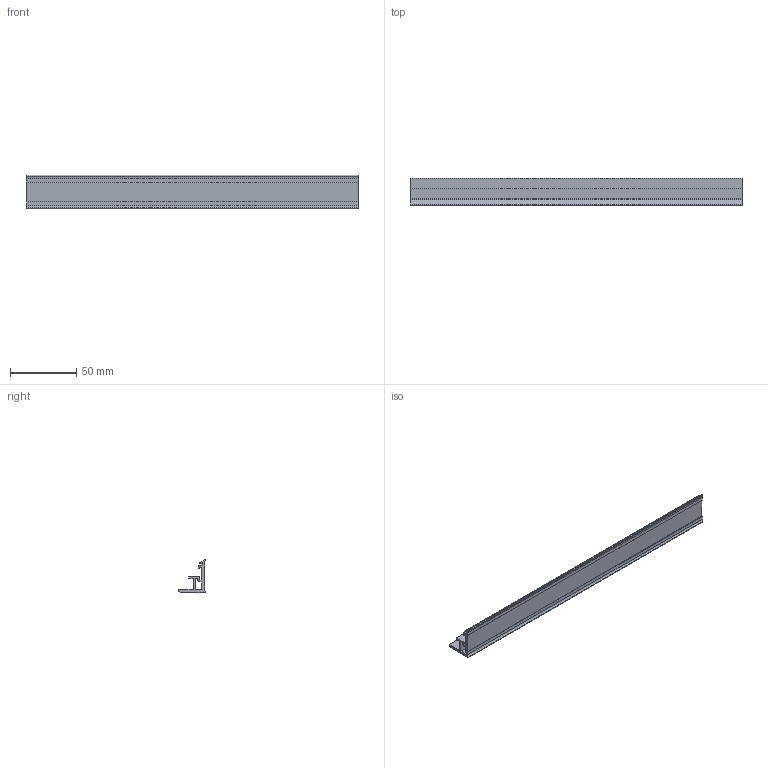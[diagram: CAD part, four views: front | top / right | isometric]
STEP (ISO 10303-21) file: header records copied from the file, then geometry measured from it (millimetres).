
FILE_DESCRIPTION (( 'STEP AP214' ), '1' );
FILE_NAME ('F50827A-1.step', '2024-12-03T16:18:03', ( '' ), ( '' ), 'SwSTEP 2.0', 'SolidWorks 2023', '' );
FILE_SCHEMA (( 'AUTOMOTIVE_DESIGN' ));
Length unit declared in the file: millimetre
Products named in the file (1): F50827A-1
Bounding box: 250 x 20.45 x 25 mm (x, y, z)
Volume: 29105.2 mm3; surface area: 35015.1 mm2
Topology: 1 solids, 1 shells, 41 faces, 117 edges, 78 vertices
Faces by surface type: plane 32, cylinder 9
Entity records: 1356 total; most frequent: CARTESIAN_POINT 237, ORIENTED_EDGE 234, DIRECTION 219, EDGE_CURVE 117, VECTOR 99, LINE 99, VERTEX_POINT 78, AXIS2_PLACEMENT_3D 60
